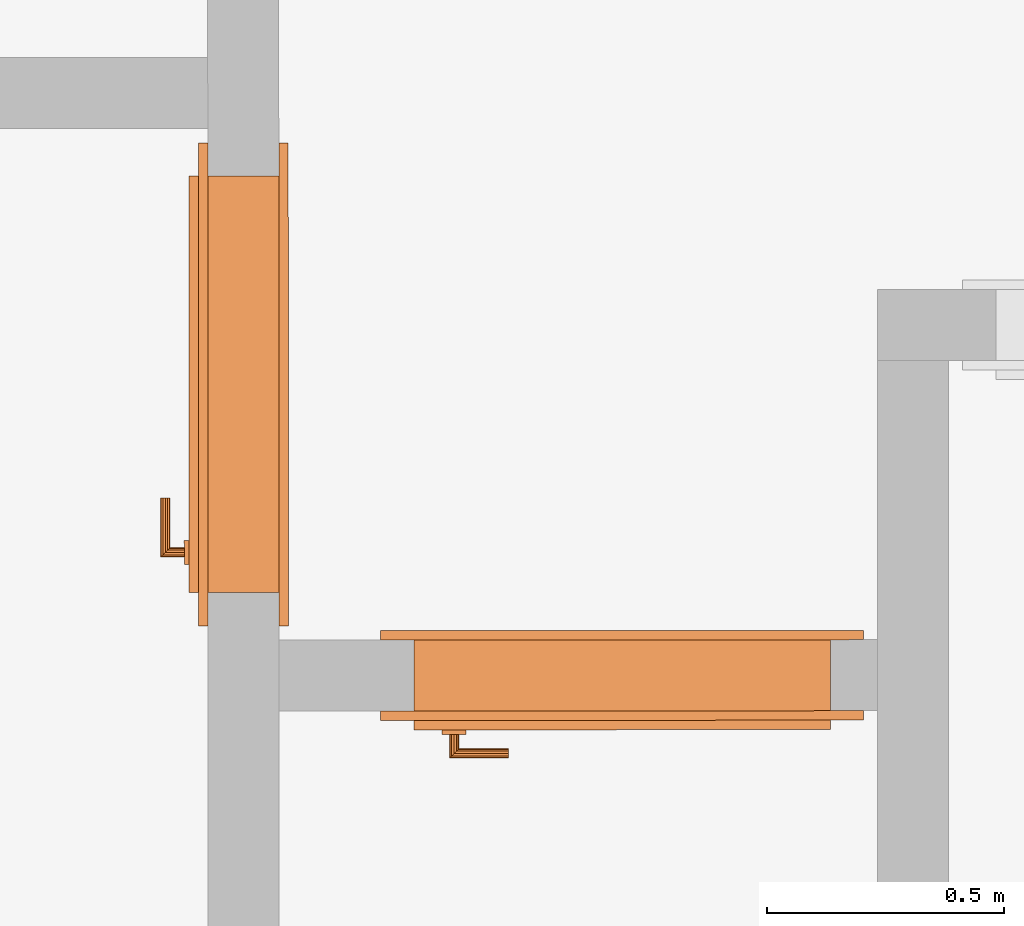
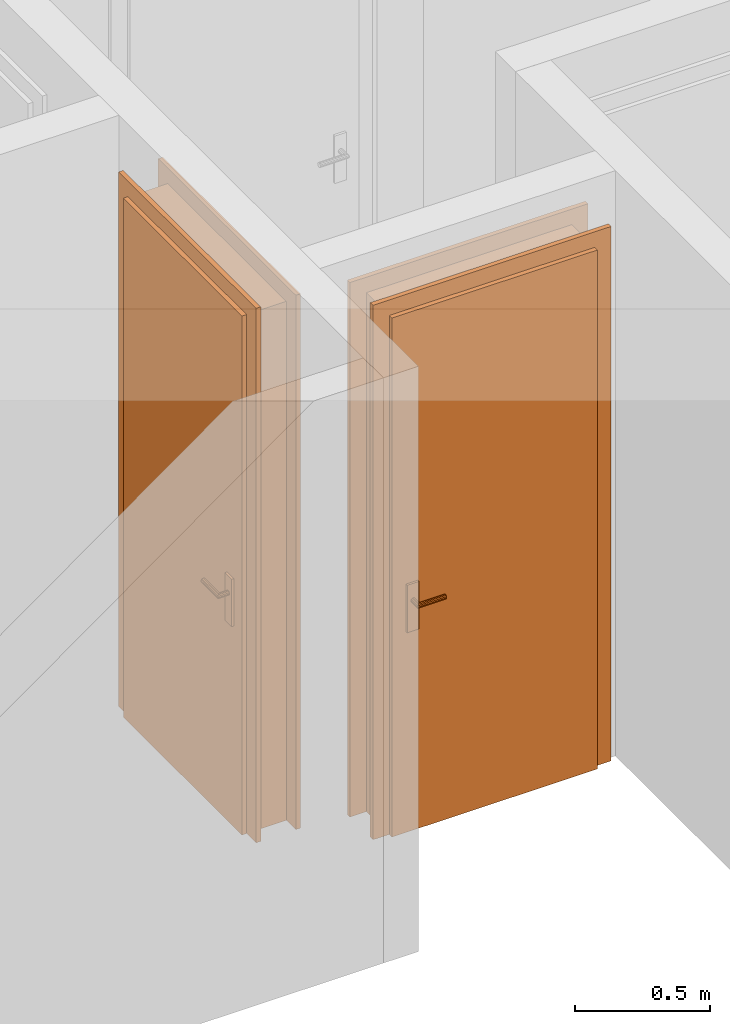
# One storey, part 4 of 9: 2 proxies.
"""IFC2X3 building model written with IfcOpenShell, lengths in metres."""

import ifcopenshell
import ifcopenshell.guid

model = None  # the IFC model being written
_history = None  # IfcOwnerHistory: only IFC2X3 demands one
_inside = {}  # id of a spatial element -> (the spatial element, [elements in it])
_under = {}  # id of a project, library or spatial element -> (it, [spatial elements below it])
_declared = {}  # id of a project -> (the project, [libraries it declares])
_typed = {}  # id of a type object -> (the type object, [elements of that type])
_made_of = {}  # id of a material, layer set ... -> (it, [elements and type objects made of it])


def new_model(schema):
    """Start an empty IFC model of exactly this schema.

    Asked for "IFC4X3", IfcOpenShell would pick the latest addendum, in which some entities
    have other attributes; the version numbers below select the first issue.
    IFC2X3 requires an IfcOwnerHistory on every rooted entity: one is made here for all.
    """
    global model, _history
    if schema == "IFC4X3":
        model = ifcopenshell.file(schema_version=(4, 3, 0, 0))
    else:
        model = ifcopenshell.file(schema=schema)
    _inside.clear()
    _under.clear()
    _declared.clear()
    _typed.clear()
    _made_of.clear()
    _history = None
    if model.schema == "IFC2X3":
        org = make("IfcOrganization", Name="unknown")
        user = make(
            "IfcPersonAndOrganization",
            ThePerson=make("IfcPerson", FamilyName="unknown"),
            TheOrganization=org,
        )
        app = make(
            "IfcApplication",
            ApplicationDeveloper=org,
            Version="unknown",
            ApplicationFullName="unknown",
            ApplicationIdentifier="unknown",
        )
        _history = make(
            "IfcOwnerHistory",
            OwningUser=user,
            OwningApplication=app,
            ChangeAction="ADDED",
            CreationDate=0,
        )
    return model


def make(cls, **values):
    """One entity of the class cls with the attributes given. An attribute that is None is left unset."""
    return model.create_entity(
        cls, **{name: value for name, value in values.items() if value is not None}
    )


def entity(cls, *values):
    """Any entity or typed value of the class cls, its attributes in the order of the schema. None: left unset."""
    e = model.create_entity(cls)
    for i, value in enumerate(values):
        if value is not None:
            e[i] = value
    return e


def rooted(cls, **values):
    """An entity with a GlobalId (a new one), such as an element, a storey or a relation."""
    return make(cls, GlobalId=ifcopenshell.guid.new(), OwnerHistory=_history, **values)


def si_unit(unit_type, name, prefix=None):
    """IfcSIUnit, for example si_unit("LENGTHUNIT", "METRE", prefix="MILLI")."""
    return make("IfcSIUnit", UnitType=unit_type, Prefix=prefix, Name=name)


def converted_unit(unit_type, name, factor, base, dimensions=None, offset=None):
    """IfcConversionBasedUnit, such as the inch: factor (a typed value) times the base unit."""
    return make(
        "IfcConversionBasedUnit"
        if offset is None
        else "IfcConversionBasedUnitWithOffset",
        ConversionOffset=offset,
        Dimensions=None
        if dimensions is None
        else entity("IfcDimensionalExponents", *dimensions),
        UnitType=unit_type,
        Name=name,
        ConversionFactor=make(
            "IfcMeasureWithUnit", ValueComponent=factor, UnitComponent=base
        ),
    )


def derived_unit(unit_type, elements):
    """IfcDerivedUnit: a product of units, each with its exponent."""
    return make(
        "IfcDerivedUnit",
        Elements=[
            make("IfcDerivedUnitElement", Unit=unit, Exponent=power)
            for unit, power in elements
        ],
        UnitType=unit_type,
    )


def assignment(units):
    """IfcUnitAssignment: the units of a project."""
    return None if units is None else make("IfcUnitAssignment", Units=units)


def point(xyz):
    """IfcCartesianPoint."""
    return None if xyz is None else make("IfcCartesianPoint", Coordinates=xyz)


def direction(xyz):
    """IfcDirection."""
    return None if xyz is None else make("IfcDirection", DirectionRatios=xyz)


def frame(location, z_axis=None, x_axis=None):
    """IfcAxis2Placement3D, a coordinate frame: its origin and axes. An axis left out is left unset."""
    return make(
        "IfcAxis2Placement3D",
        Location=point(location),
        Axis=direction(z_axis),
        RefDirection=direction(x_axis),
    )


def origin():
    """The frame at (0, 0, 0) with its axes left unset."""
    return frame((0.0, 0.0, 0.0))


def origin_with_axes():
    """The frame at (0, 0, 0) with the z axis (0, 0, 1) and the x axis (1, 0, 0) written out."""
    return frame((0.0, 0.0, 0.0), z_axis=(0.0, 0.0, 1.0), x_axis=(1.0, 0.0, 0.0))


def place(relative_to, where):
    """IfcLocalPlacement: puts the frame where relative to a parent placement (None: the world)."""
    return make(
        "IfcLocalPlacement", PlacementRelTo=relative_to, RelativePlacement=where
    )


def context(
    kind, dimensions, precision=None, world=None, true_north=None, identifier=None
):
    """IfcGeometricRepresentationContext, for example the 3D "Model" context."""
    return make(
        "IfcGeometricRepresentationContext",
        ContextIdentifier=identifier,
        ContextType=kind,
        CoordinateSpaceDimension=dimensions,
        Precision=precision,
        WorldCoordinateSystem=world,
        TrueNorth=true_north,
    )


def subcontext(parent, identifier, kind, view, scale=None):
    """IfcGeometricRepresentationSubContext, for example "Body" below "Model"."""
    return make(
        "IfcGeometricRepresentationSubContext",
        ContextIdentifier=identifier,
        ContextType=kind,
        ParentContext=parent,
        TargetScale=scale,
        TargetView=view,
    )


def project(units=None, contexts=None):
    """IfcProject with its units and contexts."""
    return rooted(
        "IfcProject",
        Name="project",
        RepresentationContexts=contexts,
        UnitsInContext=assignment(units),
    )


def spatial(cls, under=None, at=None, **own):
    """A site, building, storey or space (cls), placed at a placement, below another one or the project."""
    s = rooted(cls, ObjectPlacement=at, **own)
    if under is not None:
        _under.setdefault(under.id(), (under, []))[1].append(s)
    return s


def faces_of(points, faces, orient=None, outer=None):
    """IfcFace entities. A face is a list of loops; a loop is a list of indices into points, from 0.

    orient and outer hold one flag for each loop. By default every Orientation is true, the
    first loop of a face is its IfcFaceOuterBound and the others are IfcFaceBound.
    """
    made = []
    for i, loops in enumerate(faces):
        bounds = []
        for j, loop in enumerate(loops):
            is_outer = j == 0 if outer is None else outer[i][j]
            bounds.append(
                make(
                    "IfcFaceOuterBound" if is_outer else "IfcFaceBound",
                    Bound=make("IfcPolyLoop", Polygon=[points[k] for k in loop]),
                    Orientation=True if orient is None else orient[i][j],
                )
            )
        made.append(make("IfcFace", Bounds=bounds))
    return made


def faceted_brep(points, faces, orient=None, outer=None, voids=None):
    """IfcFacetedBrep: a solid bounded by flat faces; with voids (closed shells), ...WithVoids."""
    shared = [point(p) for p in points]
    hull = make("IfcClosedShell", CfsFaces=faces_of(shared, faces, orient, outer))
    if voids is None:
        return make("IfcFacetedBrep", Outer=hull)
    return make(
        "IfcFacetedBrepWithVoids",
        Outer=hull,
        Voids=[
            make(cls, CfsFaces=faces_of(shared, fs, o, b)) for cls, fs, o, b in voids
        ],
    )


def shape(context_of_items, identifier, shape_type, items):
    """IfcShapeRepresentation: the items that make up one representation, for example the "Body"."""
    return make(
        "IfcShapeRepresentation",
        ContextOfItems=context_of_items,
        RepresentationIdentifier=identifier,
        RepresentationType=shape_type,
        Items=items,
    )


def source(mapping_origin, context_of_items, identifier, shape_type, items):
    """IfcRepresentationMap: a shape defined once, which mapped items show again and again."""
    return make(
        "IfcRepresentationMap",
        MappingOrigin=mapping_origin,
        MappedRepresentation=shape(context_of_items, identifier, shape_type, items),
    )


def transform(
    local_origin,
    x_axis=None,
    y_axis=None,
    z_axis=None,
    scale=None,
    scale2=None,
    scale3=None,
    uniform=True,
):
    """IfcCartesianTransformationOperator3D, or its non-uniform kind. x_axis, y_axis, z_axis: its Axis1, 2, 3."""
    if uniform:
        return make(
            "IfcCartesianTransformationOperator3D",
            Axis1=direction(x_axis),
            Axis2=direction(y_axis),
            LocalOrigin=point(local_origin),
            Scale=scale,
            Axis3=direction(z_axis),
        )
    return make(
        "IfcCartesianTransformationOperator3DnonUniform",
        Axis1=direction(x_axis),
        Axis2=direction(y_axis),
        LocalOrigin=point(local_origin),
        Scale=scale,
        Axis3=direction(z_axis),
        Scale2=scale2,
        Scale3=scale3,
    )


def mapped(mapping_source, mapping_target):
    """IfcMappedItem: shows the shape of a source again, moved by a transform."""
    return make(
        "IfcMappedItem", MappingSource=mapping_source, MappingTarget=mapping_target
    )


def made_of(thing, what):
    """Note that an element or type object is made of a material, layer set ...; save() writes the relation."""
    if what is not None:
        _made_of.setdefault(what.id(), (what, []))[1].append(thing)
    return thing


def element(
    cls,
    number,
    at=None,
    inside=None,
    cuts=None,
    type_object=None,
    material=None,
    context=None,
    identifier="Body",
    shape_type=None,
    held_by="IfcProductDefinitionShape",
    body=None,
    shapes=None,
    **own,
):
    """One element of the class cls, such as IfcWall. Its Tag is "e" and its number.

    at: its placement. inside: the storey or other place that contains it. cuts: it is an
    opening in that element (IfcRelVoidsElement). A single representation is given by context,
    identifier, shape_type and body (its items); several are given by shapes. held_by: the class
    of the entity that holds the representations. save() writes the other relations.
    """
    e = rooted(cls, Tag="e%d" % number, ObjectPlacement=at, **own)
    if body is not None:
        shapes = [shape(context, identifier, shape_type, body)]
    if shapes is not None:
        e.Representation = make(held_by, Representations=shapes)
    if inside is not None:
        _inside.setdefault(inside.id(), (inside, []))[1].append(e)
    if cuts is not None:
        rooted(
            "IfcRelVoidsElement", RelatingBuildingElement=cuts, RelatedOpeningElement=e
        )
    if type_object is not None:
        _typed.setdefault(type_object.id(), (type_object, []))[1].append(e)
    return made_of(e, material)


def aggregate(whole, parts):
    """IfcRelAggregates: a whole, such as a stair, and the parts it consists of."""
    return rooted("IfcRelAggregates", RelatingObject=whole, RelatedObjects=parts)


def save(model, path):
    """Write the relations noted so far, then the file.

    IfcRelAggregates (storeys below a building ...), IfcRelContainedInSpatialStructure (elements
    in a storey), IfcRelDefinesByType, IfcRelAssociatesMaterial and IfcRelDeclares: one each for
    every whole, place, type object, material and project.
    """
    for whole, parts in _under.values():
        aggregate(whole, parts)
    for where, things in _inside.values():
        rooted(
            "IfcRelContainedInSpatialStructure",
            RelatedElements=things,
            RelatingStructure=where,
        )
    for kind, things in _typed.values():
        rooted("IfcRelDefinesByType", RelatedObjects=things, RelatingType=kind)
    for what, things in _made_of.values():
        rooted("IfcRelAssociatesMaterial", RelatedObjects=things, RelatingMaterial=what)
    for by, libraries in _declared.values():
        rooted("IfcRelDeclares", RelatingContext=by, RelatedDefinitions=libraries)
    model.write(path)


model = new_model("IFC2X3")

# Units and contexts
model_context = context("Model", 3, precision=1e-05, world=origin(), true_north=direction((0.772621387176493, -0.634867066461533)))
body_context = subcontext(model_context, "Body", "Model", "MODEL_VIEW")
ifc_project = project(units=[si_unit("LENGTHUNIT", "METRE"), si_unit("AREAUNIT", "SQUARE_METRE"), si_unit("VOLUMEUNIT", "CUBIC_METRE"), si_unit("MASSUNIT", "GRAM", prefix="KILO"), converted_unit("PLANEANGLEUNIT", "DEGREE", entity("IfcPlaneAngleMeasure", 0.0174532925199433), si_unit("PLANEANGLEUNIT", "RADIAN"), dimensions=[0, 0, 0, 0, 0, 0, 0]), derived_unit("THERMALTRANSMITTANCEUNIT", [(si_unit("POWERUNIT", "WATT"), 1), (si_unit("THERMODYNAMICTEMPERATUREUNIT", "KELVIN"), -1), (si_unit("LENGTHUNIT", "METRE"), -2)]), derived_unit("VOLUMETRICFLOWRATEUNIT", [(si_unit("LENGTHUNIT", "METRE"), 3), (converted_unit("TIMEUNIT", "hour", entity("IfcTimeMeasure", 3600.0), si_unit("TIMEUNIT", "SECOND"), dimensions=[0, 0, 1, 0, 0, 0, 0]), -1), (si_unit("LENGTHUNIT", "METRE"), -1)])], contexts=[model_context])

# Site, building, storey
site_placement = place(None, origin())
site = spatial("IfcSite", under=ifc_project, at=site_placement, Name="Modelle auf dem Nullpunkt", CompositionType="ELEMENT")
building_placement = place(site_placement, origin())
building = spatial("IfcBuilding", under=site, at=building_placement, Name="I", CompositionType="ELEMENT")
storey_placement = place(building_placement, origin())
storey = spatial("IfcBuildingStorey", under=building, at=storey_placement, Name="EG", CompositionType="ELEMENT", Elevation=0.0)

# Proxies
shared_shape_1 = source(origin_with_axes(), body_context, "Body", "Brep", [
    faceted_brep([(0.950000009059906, 0.19000000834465, 2.35), (0.930000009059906, 0.19000000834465, 2.35), (0.930000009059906, 0.19000000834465, 0.0), (0.950000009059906, 0.19000000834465, 0.0), (0.950000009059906, 0.0, 0.0), (0.930000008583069, 0.0, 0.0), (0.930000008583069, 0.0, 2.35), (0.950000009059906, 0.0, 2.35)], [[[0, 1, 2, 3]], [[4, 5, 6, 7]], [[3, 4, 7, 0]], [[2, 5, 4, 3]], [[1, 6, 5, 2]], [[0, 7, 6, 1]]], orient=[[False], [False], [False], [False], [False], [False]]),
    faceted_brep([(0.950000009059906, 0.19000000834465, 2.42), (0.950000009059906, 0.19000000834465, 0.0), (1.02000000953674, 0.19000000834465, 0.0), (1.02000000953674, 0.19000000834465, 2.42), (0.950000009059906, 0.170000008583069, 0.0), (0.950000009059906, 0.170000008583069, 2.42), (1.02000000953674, 0.170000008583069, 2.42), (1.02000000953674, 0.170000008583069, 0.0)], [[[0, 1, 2, 3]], [[4, 5, 6, 7]], [[1, 0, 5, 4]], [[2, 1, 4, 7]], [[3, 2, 7, 6]], [[0, 3, 6, 5]]], orient=[[False], [False], [False], [False], [False], [False]]),
    faceted_brep([(0.950000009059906, 0.0199999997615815, 2.42), (0.950000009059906, 0.0199999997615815, 0.0), (1.02000001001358, 0.0199999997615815, 0.0), (1.02000001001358, 0.0199999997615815, 2.42), (0.950000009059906, 0.0, 0.0), (0.950000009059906, 0.0, 2.42), (1.02000000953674, 0.0, 2.42), (1.02000000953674, 0.0, 0.0)], [[[0, 1, 2, 3]], [[4, 5, 6, 7]], [[1, 0, 5, 4]], [[2, 1, 4, 7]], [[3, 2, 7, 6]], [[0, 3, 6, 5]]], orient=[[False], [False], [False], [False], [False], [False]]),
    faceted_brep([(0.0900000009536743, 0.19000000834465, 2.35), (0.0700000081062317, 0.19000000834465, 2.35), (0.0700000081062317, 0.19000000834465, 0.0), (0.0900000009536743, 0.19000000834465, 0.0), (0.0900000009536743, 0.0, 0.0), (0.0700000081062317, 0.0, 0.0), (0.0700000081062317, 0.0, 2.35), (0.0900000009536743, 0.0, 2.35)], [[[0, 1, 2, 3]], [[4, 5, 6, 7]], [[3, 4, 7, 0]], [[2, 5, 4, 3]], [[1, 6, 5, 2]], [[0, 7, 6, 1]]], orient=[[False], [False], [False], [False], [False], [False]]),
    faceted_brep([(0.0700000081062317, 0.19000000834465, 2.42), (0.0, 0.19000000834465, 2.42), (0.0, 0.19000000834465, 0.0), (0.0700000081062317, 0.19000000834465, 0.0), (0.0700000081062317, 0.170000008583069, 0.0), (0.0, 0.170000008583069, 0.0), (0.0, 0.170000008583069, 2.42), (0.0700000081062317, 0.170000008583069, 2.42)], [[[0, 1, 2, 3]], [[4, 5, 6, 7]], [[3, 4, 7, 0]], [[2, 5, 4, 3]], [[1, 6, 5, 2]], [[0, 7, 6, 1]]], orient=[[False], [False], [False], [False], [False], [False]]),
    faceted_brep([(0.0700000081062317, 0.0199999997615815, 2.42), (0.0, 0.0199999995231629, 2.42), (0.0, 0.0199999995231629, 0.0), (0.0700000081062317, 0.0199999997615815, 0.0), (0.0700000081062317, 0.0, 0.0), (0.0, 0.0, 0.0), (0.0, 0.0, 2.42), (0.0700000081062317, 0.0, 2.42)], [[[0, 1, 2, 3]], [[4, 5, 6, 7]], [[3, 4, 7, 0]], [[2, 5, 4, 3]], [[1, 6, 5, 2]], [[0, 7, 6, 1]]], orient=[[False], [False], [False], [False], [False], [False]]),
    faceted_brep([(0.930000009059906, 0.19000000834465, 2.35), (0.0900000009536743, 0.19000000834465, 2.35), (0.0900000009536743, 0.19000000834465, 2.33), (0.930000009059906, 0.19000000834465, 2.33), (0.930000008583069, 0.0, 2.33), (0.0900000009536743, 0.0, 2.33), (0.0900000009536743, 0.0, 2.35), (0.930000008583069, 0.0, 2.35)], [[[0, 1, 2, 3]], [[4, 5, 6, 7]], [[3, 4, 7, 0]], [[2, 5, 4, 3]], [[1, 6, 5, 2]], [[0, 7, 6, 1]]], orient=[[False], [False], [False], [False], [False], [False]]),
    faceted_brep([(0.950000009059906, 0.19000000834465, 2.42), (0.0700000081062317, 0.19000000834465, 2.42), (0.0700000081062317, 0.19000000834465, 2.35), (0.950000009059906, 0.19000000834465, 2.35), (0.950000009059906, 0.170000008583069, 2.35), (0.0700000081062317, 0.170000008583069, 2.35), (0.0700000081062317, 0.170000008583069, 2.42), (0.950000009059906, 0.170000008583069, 2.42)], [[[0, 1, 2, 3]], [[4, 5, 6, 7]], [[3, 4, 7, 0]], [[2, 5, 4, 3]], [[1, 6, 5, 2]], [[0, 7, 6, 1]]], orient=[[False], [False], [False], [False], [False], [False]]),
    faceted_brep([(0.950000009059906, 0.0199999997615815, 2.42), (0.0700000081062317, 0.0199999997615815, 2.42), (0.0700000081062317, 0.0199999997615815, 2.35), (0.950000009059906, 0.0199999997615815, 2.35), (0.950000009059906, 0.0, 2.35), (0.0700000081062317, 0.0, 2.35), (0.0700000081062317, 0.0, 2.42), (0.950000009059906, 0.0, 2.42)], [[[0, 1, 2, 3]], [[4, 5, 6, 7]], [[3, 4, 7, 0]], [[2, 5, 4, 3]], [[1, 6, 5, 2]], [[0, 7, 6, 1]]], orient=[[False], [False], [False], [False], [False], [False]]),
    faceted_brep([(0.950000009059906, 0.210000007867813, 2.35), (0.0700000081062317, 0.210000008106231, 2.35), (0.0700000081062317, 0.210000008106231, 0.0), (0.950000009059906, 0.210000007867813, 0.0), (0.950000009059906, 0.170000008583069, 0.0), (0.0700000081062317, 0.170000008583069, 0.0), (0.0700000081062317, 0.170000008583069, 2.35), (0.950000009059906, 0.170000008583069, 2.35)], [[[0, 1, 2, 3]], [[4, 5, 6, 7]], [[3, 4, 7, 0]], [[2, 5, 4, 3]], [[1, 6, 5, 2]], [[0, 7, 6, 1]]], orient=[[False], [False], [False], [False], [False], [False]]),
    faceted_brep([(0.890000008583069, 0.170000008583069, 1.125), (0.840000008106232, 0.170000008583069, 1.125), (0.840000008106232, 0.170000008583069, 0.91), (0.890000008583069, 0.170000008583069, 0.91), (0.890000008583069, 0.160000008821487, 0.91), (0.840000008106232, 0.160000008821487, 0.91), (0.840000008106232, 0.160000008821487, 1.125), (0.890000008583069, 0.160000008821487, 1.125)], [[[0, 1, 2, 3]], [[4, 5, 6, 7]], [[3, 4, 7, 0]], [[2, 5, 4, 3]], [[1, 6, 5, 2]], [[0, 7, 6, 1]]], orient=[[False], [False], [False], [False], [False], [False]]),
    faceted_brep([(0.865000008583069, 0.160000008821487, 1.06), (0.860000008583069, 0.160000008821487, 1.05866025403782), (0.856339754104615, 0.160000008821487, 1.055), (0.855000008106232, 0.160000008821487, 1.05), (0.856339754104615, 0.160000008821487, 1.045), (0.860000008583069, 0.160000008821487, 1.04133974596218), (0.865000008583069, 0.160000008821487, 1.04), (0.870000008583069, 0.160000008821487, 1.04133974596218), (0.873660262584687, 0.160000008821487, 1.045), (0.875000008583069, 0.160000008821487, 1.05), (0.873660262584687, 0.160000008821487, 1.055), (0.870000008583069, 0.160000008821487, 1.05866025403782), (0.870000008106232, 0.115000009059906, 1.05866025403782), (0.865000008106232, 0.120000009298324, 1.06), (0.873660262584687, 0.111339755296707, 1.055), (0.875000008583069, 0.110000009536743, 1.05), (0.873660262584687, 0.111339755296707, 1.045), (0.870000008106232, 0.115000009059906, 1.04133974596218), (0.865000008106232, 0.120000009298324, 1.04), (0.860000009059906, 0.125000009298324, 1.04133974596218), (0.856339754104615, 0.128660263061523, 1.045), (0.855000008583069, 0.130000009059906, 1.05), (0.856339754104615, 0.128660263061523, 1.055), (0.860000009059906, 0.125000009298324, 1.05866025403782), (0.750000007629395, 0.120000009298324, 1.06), (0.750000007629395, 0.115000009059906, 1.05866025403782), (0.750000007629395, 0.111339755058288, 1.055), (0.750000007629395, 0.110000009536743, 1.05), (0.750000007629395, 0.111339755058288, 1.045), (0.750000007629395, 0.115000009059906, 1.04133974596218), (0.750000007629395, 0.120000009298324, 1.04), (0.750000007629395, 0.125000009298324, 1.04133974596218), (0.750000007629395, 0.128660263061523, 1.045), (0.750000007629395, 0.130000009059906, 1.05), (0.750000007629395, 0.128660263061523, 1.055), (0.750000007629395, 0.125000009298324, 1.05866025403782)], [[[0, 1, 2, 3, 4, 5, 6, 7, 8, 9, 10, 11]], [[0, 11, 12, 13]], [[11, 10, 14, 12]], [[10, 9, 15, 14]], [[9, 8, 16, 15]], [[8, 7, 17, 16]], [[7, 6, 18, 17]], [[6, 5, 19, 18]], [[5, 4, 20, 19]], [[4, 3, 21, 20]], [[3, 2, 22, 21]], [[2, 1, 23, 22]], [[1, 0, 13, 23]], [[24, 25, 26, 27, 28, 29, 30, 31, 32, 33, 34, 35]], [[13, 12, 25, 24]], [[12, 14, 26, 25]], [[14, 15, 27, 26]], [[15, 16, 28, 27]], [[16, 17, 29, 28]], [[17, 18, 30, 29]], [[18, 19, 31, 30]], [[19, 20, 32, 31]], [[20, 21, 33, 32]], [[21, 22, 34, 33]], [[22, 23, 35, 34]], [[23, 13, 24, 35]]], orient=[[False], [False], [False], [False], [False], [False], [False], [False], [False], [False], [False], [False], [False], [False], [False], [False], [False], [False], [False], [False], [False], [False], [False], [False], [False], [False]]),
    faceted_brep([(0.890000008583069, 0.210000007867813, 1.125), (0.890000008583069, 0.210000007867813, 0.91), (0.840000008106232, 0.210000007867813, 0.91), (0.840000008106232, 0.210000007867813, 1.125), (0.890000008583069, 0.220000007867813, 0.91), (0.890000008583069, 0.220000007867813, 1.125), (0.840000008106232, 0.220000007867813, 1.125), (0.840000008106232, 0.220000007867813, 0.91)], [[[0, 1, 2, 3]], [[4, 5, 6, 7]], [[1, 0, 5, 4]], [[2, 1, 4, 7]], [[3, 2, 7, 6]], [[0, 3, 6, 5]]], orient=[[False], [False], [False], [False], [False], [False]]),
    faceted_brep([(0.865000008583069, 0.220000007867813, 1.06), (0.870000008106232, 0.220000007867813, 1.05866025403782), (0.873660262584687, 0.220000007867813, 1.055), (0.875000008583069, 0.220000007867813, 1.05), (0.873660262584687, 0.220000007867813, 1.045), (0.870000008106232, 0.220000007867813, 1.04133974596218), (0.865000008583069, 0.220000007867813, 1.04), (0.860000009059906, 0.220000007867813, 1.04133974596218), (0.856339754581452, 0.220000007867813, 1.045), (0.855000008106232, 0.220000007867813, 1.05), (0.856339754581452, 0.220000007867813, 1.055), (0.860000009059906, 0.220000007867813, 1.05866025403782), (0.865000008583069, 0.260000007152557, 1.06), (0.870000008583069, 0.265000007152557, 1.05866025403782), (0.873660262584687, 0.268660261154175, 1.055), (0.875000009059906, 0.270000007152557, 1.05), (0.873660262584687, 0.268660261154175, 1.045), (0.870000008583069, 0.265000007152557, 1.04133974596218), (0.865000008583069, 0.260000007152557, 1.04), (0.860000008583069, 0.255000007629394, 1.04133974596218), (0.856339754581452, 0.251339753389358, 1.045), (0.855000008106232, 0.250000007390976, 1.05), (0.856339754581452, 0.251339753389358, 1.055), (0.860000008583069, 0.255000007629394, 1.05866025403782), (0.750000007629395, 0.260000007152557, 1.06), (0.750000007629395, 0.255000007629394, 1.05866025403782), (0.750000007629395, 0.251339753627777, 1.055), (0.750000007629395, 0.250000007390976, 1.05), (0.750000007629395, 0.251339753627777, 1.045), (0.750000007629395, 0.255000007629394, 1.04133974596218), (0.750000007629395, 0.260000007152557, 1.04), (0.750000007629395, 0.265000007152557, 1.04133974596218), (0.750000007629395, 0.268660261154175, 1.045), (0.750000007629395, 0.270000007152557, 1.05), (0.750000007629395, 0.268660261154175, 1.055), (0.750000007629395, 0.265000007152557, 1.05866025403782)], [[[0, 1, 2, 3, 4, 5, 6, 7, 8, 9, 10, 11]], [[0, 12, 13, 1]], [[1, 13, 14, 2]], [[2, 14, 15, 3]], [[3, 15, 16, 4]], [[4, 16, 17, 5]], [[5, 17, 18, 6]], [[6, 18, 19, 7]], [[7, 19, 20, 8]], [[8, 20, 21, 9]], [[9, 21, 22, 10]], [[10, 22, 23, 11]], [[11, 23, 12, 0]], [[24, 25, 26, 27, 28, 29, 30, 31, 32, 33, 34, 35]], [[12, 24, 35, 13]], [[13, 35, 34, 14]], [[14, 34, 33, 15]], [[15, 33, 32, 16]], [[16, 32, 31, 17]], [[17, 31, 30, 18]], [[18, 30, 29, 19]], [[19, 29, 28, 20]], [[20, 28, 27, 21]], [[21, 27, 26, 22]], [[22, 26, 25, 23]], [[23, 25, 24, 12]]], orient=[[False], [False], [False], [False], [False], [False], [False], [False], [False], [False], [False], [False], [False], [False], [False], [False], [False], [False], [False], [False], [False], [False], [False], [False], [False], [False]]),
])
proxy_1_placement = place(storey_placement, frame((33.5238810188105, -3.33191685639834, 435.89), z_axis=(0.0, 0.0, 1.0), x_axis=(-0.999999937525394, -0.000353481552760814, 0.0)))
element("IfcBuildingElementProxy", 1, at=proxy_1_placement, inside=storey, Name="1flg Weiß UZ außen", context=body_context, shape_type="MappedRepresentation", body=[
    mapped(shared_shape_1, transform((0.0, 0.0, 0.0), x_axis=(1.0, 0.0, 0.0), y_axis=(0.0, 1.0, 0.0), z_axis=(0.0, 0.0, 1.0), scale=1.0)),
])
shared_shape_2 = source(origin_with_axes(), body_context, "Body", "Brep", [
    faceted_brep([(0.070000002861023, 0.1900000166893, 2.35), (0.070000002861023, 0.1900000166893, 0.0), (0.0900000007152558, 0.1900000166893, 0.0), (0.0900000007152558, 0.1900000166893, 2.35), (0.070000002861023, 0.0, 0.0), (0.070000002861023, 0.0, 2.35), (0.0900000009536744, 0.0, 2.35), (0.0900000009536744, 0.0, 0.0)], [[[0, 1, 2, 3]], [[4, 5, 6, 7]], [[1, 0, 5, 4]], [[2, 1, 4, 7]], [[3, 2, 7, 6]], [[0, 3, 6, 5]]], orient=[[False], [False], [False], [False], [False], [False]]),
    faceted_brep([(0.070000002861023, 0.1900000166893, 2.42), (0.0, 0.1900000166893, 2.42), (0.0, 0.1900000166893, 0.0), (0.070000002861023, 0.1900000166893, 0.0), (0.070000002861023, 0.170000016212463, 0.0), (0.0, 0.170000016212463, 0.0), (0.0, 0.170000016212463, 2.42), (0.070000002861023, 0.170000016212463, 2.42)], [[[0, 1, 2, 3]], [[4, 5, 6, 7]], [[3, 4, 7, 0]], [[2, 5, 4, 3]], [[1, 6, 5, 2]], [[0, 7, 6, 1]]], orient=[[False], [False], [False], [False], [False], [False]]),
    faceted_brep([(0.070000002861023, 0.0200000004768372, 2.42), (0.0, 0.0200000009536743, 2.42), (0.0, 0.0200000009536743, 0.0), (0.070000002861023, 0.0200000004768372, 0.0), (0.070000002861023, 0.0, 0.0), (0.0, 0.0, 0.0), (0.0, 0.0, 2.42), (0.070000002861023, 0.0, 2.42)], [[[0, 1, 2, 3]], [[4, 5, 6, 7]], [[3, 4, 7, 0]], [[2, 5, 4, 3]], [[1, 6, 5, 2]], [[0, 7, 6, 1]]], orient=[[False], [False], [False], [False], [False], [False]]),
    faceted_brep([(0.930000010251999, 0.1900000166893, 2.35), (0.930000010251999, 0.1900000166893, 0.0), (0.950000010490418, 0.1900000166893, 0.0), (0.950000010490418, 0.1900000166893, 2.35), (0.930000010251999, 0.0, 0.0), (0.930000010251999, 0.0, 2.35), (0.950000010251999, 0.0, 2.35), (0.950000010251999, 0.0, 0.0)], [[[0, 1, 2, 3]], [[4, 5, 6, 7]], [[1, 0, 5, 4]], [[2, 1, 4, 7]], [[3, 2, 7, 6]], [[0, 3, 6, 5]]], orient=[[False], [False], [False], [False], [False], [False]]),
    faceted_brep([(0.950000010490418, 0.1900000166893, 2.42), (0.950000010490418, 0.1900000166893, 0.0), (1.02000001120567, 0.1900000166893, 0.0), (1.02000001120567, 0.1900000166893, 2.42), (0.950000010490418, 0.170000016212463, 0.0), (0.950000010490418, 0.170000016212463, 2.42), (1.02000001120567, 0.170000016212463, 2.42), (1.02000001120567, 0.170000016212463, 0.0)], [[[0, 1, 2, 3]], [[4, 5, 6, 7]], [[1, 0, 5, 4]], [[2, 1, 4, 7]], [[3, 2, 7, 6]], [[0, 3, 6, 5]]], orient=[[False], [False], [False], [False], [False], [False]]),
    faceted_brep([(0.950000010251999, 0.0200000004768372, 2.42), (0.950000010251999, 0.0200000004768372, 0.0), (1.02000001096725, 0.0200000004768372, 0.0), (1.02000001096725, 0.0200000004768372, 2.42), (0.950000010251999, 0.0, 0.0), (0.950000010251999, 0.0, 2.42), (1.02000001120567, 0.0, 2.42), (1.02000001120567, 0.0, 0.0)], [[[0, 1, 2, 3]], [[4, 5, 6, 7]], [[1, 0, 5, 4]], [[2, 1, 4, 7]], [[3, 2, 7, 6]], [[0, 3, 6, 5]]], orient=[[False], [False], [False], [False], [False], [False]]),
    faceted_brep([(0.0900000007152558, 0.1900000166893, 2.35), (0.0900000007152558, 0.1900000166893, 2.33), (0.930000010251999, 0.1900000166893, 2.33), (0.930000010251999, 0.1900000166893, 2.35), (0.0900000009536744, 0.0, 2.33), (0.0900000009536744, 0.0, 2.35), (0.930000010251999, 0.0, 2.35), (0.930000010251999, 0.0, 2.33)], [[[0, 1, 2, 3]], [[4, 5, 6, 7]], [[1, 0, 5, 4]], [[2, 1, 4, 7]], [[3, 2, 7, 6]], [[0, 3, 6, 5]]], orient=[[False], [False], [False], [False], [False], [False]]),
    faceted_brep([(0.070000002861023, 0.1900000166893, 2.42), (0.070000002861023, 0.1900000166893, 2.35), (0.950000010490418, 0.1900000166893, 2.35), (0.950000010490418, 0.1900000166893, 2.42), (0.070000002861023, 0.170000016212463, 2.35), (0.070000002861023, 0.170000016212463, 2.42), (0.950000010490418, 0.170000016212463, 2.42), (0.950000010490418, 0.170000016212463, 2.35)], [[[0, 1, 2, 3]], [[4, 5, 6, 7]], [[1, 0, 5, 4]], [[2, 1, 4, 7]], [[3, 2, 7, 6]], [[0, 3, 6, 5]]], orient=[[False], [False], [False], [False], [False], [False]]),
    faceted_brep([(0.070000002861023, 0.0200000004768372, 2.42), (0.070000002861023, 0.0200000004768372, 2.35), (0.950000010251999, 0.0200000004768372, 2.35), (0.950000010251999, 0.0200000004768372, 2.42), (0.070000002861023, 0.0, 2.35), (0.070000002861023, 0.0, 2.42), (0.950000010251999, 0.0, 2.42), (0.950000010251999, 0.0, 2.35)], [[[0, 1, 2, 3]], [[4, 5, 6, 7]], [[1, 0, 5, 4]], [[2, 1, 4, 7]], [[3, 2, 7, 6]], [[0, 3, 6, 5]]], orient=[[False], [False], [False], [False], [False], [False]]),
    faceted_brep([(0.070000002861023, 0.210000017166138, 2.35), (0.070000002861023, 0.210000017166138, 0.0), (0.950000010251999, 0.210000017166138, 0.0), (0.950000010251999, 0.210000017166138, 2.35), (0.070000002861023, 0.170000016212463, 0.0), (0.070000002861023, 0.170000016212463, 2.35), (0.950000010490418, 0.170000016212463, 2.35), (0.950000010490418, 0.170000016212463, 0.0)], [[[0, 1, 2, 3]], [[4, 5, 6, 7]], [[1, 0, 5, 4]], [[2, 1, 4, 7]], [[3, 2, 7, 6]], [[0, 3, 6, 5]]], orient=[[False], [False], [False], [False], [False], [False]]),
    faceted_brep([(0.130000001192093, 0.170000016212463, 1.125), (0.130000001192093, 0.170000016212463, 0.91), (0.18000000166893, 0.170000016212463, 0.91), (0.18000000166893, 0.170000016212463, 1.125), (0.130000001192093, 0.160000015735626, 0.91), (0.130000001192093, 0.160000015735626, 1.125), (0.18000000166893, 0.160000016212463, 1.125), (0.18000000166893, 0.160000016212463, 0.91)], [[[0, 1, 2, 3]], [[4, 5, 6, 7]], [[1, 0, 5, 4]], [[2, 1, 4, 7]], [[3, 2, 7, 6]], [[0, 3, 6, 5]]], orient=[[False], [False], [False], [False], [False], [False]]),
    faceted_brep([(0.155000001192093, 0.160000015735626, 1.06), (0.15000000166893, 0.160000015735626, 1.05866025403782), (0.146339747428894, 0.160000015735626, 1.055), (0.145000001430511, 0.160000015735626, 1.05), (0.146339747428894, 0.160000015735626, 1.045), (0.15000000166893, 0.160000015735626, 1.04133974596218), (0.155000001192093, 0.160000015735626, 1.04), (0.160000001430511, 0.160000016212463, 1.04133974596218), (0.163660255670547, 0.160000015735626, 1.045), (0.165000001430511, 0.160000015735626, 1.05), (0.163660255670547, 0.160000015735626, 1.055), (0.160000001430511, 0.160000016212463, 1.05866025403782), (0.155000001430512, 0.120000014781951, 1.06), (0.150000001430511, 0.115000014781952, 1.05866025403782), (0.146339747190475, 0.111339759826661, 1.055), (0.145000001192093, 0.110000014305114, 1.05), (0.146339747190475, 0.111339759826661, 1.045), (0.150000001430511, 0.115000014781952, 1.04133974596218), (0.155000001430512, 0.120000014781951, 1.04), (0.160000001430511, 0.125000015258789, 1.04133974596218), (0.163660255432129, 0.12866026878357, 1.045), (0.165000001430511, 0.130000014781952, 1.05), (0.163660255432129, 0.12866026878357, 1.055), (0.160000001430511, 0.125000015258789, 1.05866025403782), (0.270000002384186, 0.120000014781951, 1.06), (0.270000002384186, 0.125000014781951, 1.05866025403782), (0.270000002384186, 0.12866026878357, 1.055), (0.270000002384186, 0.130000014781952, 1.05), (0.270000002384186, 0.12866026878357, 1.045), (0.270000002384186, 0.125000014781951, 1.04133974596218), (0.270000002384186, 0.120000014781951, 1.04), (0.270000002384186, 0.115000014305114, 1.04133974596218), (0.270000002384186, 0.111339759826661, 1.045), (0.270000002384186, 0.110000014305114, 1.05), (0.270000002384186, 0.111339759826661, 1.055), (0.270000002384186, 0.115000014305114, 1.05866025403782)], [[[0, 1, 2, 3, 4, 5, 6, 7, 8, 9, 10, 11]], [[0, 12, 13, 1]], [[1, 13, 14, 2]], [[2, 14, 15, 3]], [[3, 15, 16, 4]], [[4, 16, 17, 5]], [[5, 17, 18, 6]], [[6, 18, 19, 7]], [[7, 19, 20, 8]], [[8, 20, 21, 9]], [[9, 21, 22, 10]], [[10, 22, 23, 11]], [[11, 23, 12, 0]], [[24, 25, 26, 27, 28, 29, 30, 31, 32, 33, 34, 35]], [[12, 24, 35, 13]], [[13, 35, 34, 14]], [[14, 34, 33, 15]], [[15, 33, 32, 16]], [[16, 32, 31, 17]], [[17, 31, 30, 18]], [[18, 30, 29, 19]], [[19, 29, 28, 20]], [[20, 28, 27, 21]], [[21, 27, 26, 22]], [[22, 26, 25, 23]], [[23, 25, 24, 12]]], orient=[[False], [False], [False], [False], [False], [False], [False], [False], [False], [False], [False], [False], [False], [False], [False], [False], [False], [False], [False], [False], [False], [False], [False], [False], [False], [False]]),
    faceted_brep([(0.130000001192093, 0.210000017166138, 1.125), (0.18000000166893, 0.210000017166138, 1.125), (0.18000000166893, 0.210000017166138, 0.91), (0.130000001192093, 0.210000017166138, 0.91), (0.130000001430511, 0.220000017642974, 0.91), (0.18000000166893, 0.220000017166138, 0.91), (0.18000000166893, 0.220000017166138, 1.125), (0.130000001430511, 0.220000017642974, 1.125)], [[[0, 1, 2, 3]], [[4, 5, 6, 7]], [[3, 4, 7, 0]], [[2, 5, 4, 3]], [[1, 6, 5, 2]], [[0, 7, 6, 1]]], orient=[[False], [False], [False], [False], [False], [False]]),
    faceted_brep([(0.155000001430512, 0.220000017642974, 1.06), (0.160000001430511, 0.220000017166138, 1.05866025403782), (0.163660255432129, 0.220000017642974, 1.055), (0.16500000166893, 0.220000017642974, 1.05), (0.163660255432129, 0.220000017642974, 1.045), (0.160000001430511, 0.220000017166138, 1.04133974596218), (0.155000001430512, 0.220000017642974, 1.04), (0.150000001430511, 0.220000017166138, 1.04133974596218), (0.146339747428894, 0.220000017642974, 1.045), (0.145000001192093, 0.220000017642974, 1.05), (0.146339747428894, 0.220000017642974, 1.055), (0.150000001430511, 0.220000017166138, 1.05866025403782), (0.150000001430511, 0.26500001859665, 1.05866025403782), (0.155000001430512, 0.26000001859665, 1.06), (0.146339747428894, 0.26866027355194, 1.055), (0.145000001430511, 0.270000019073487, 1.05), (0.146339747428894, 0.26866027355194, 1.045), (0.150000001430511, 0.26500001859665, 1.04133974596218), (0.155000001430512, 0.26000001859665, 1.04), (0.160000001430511, 0.255000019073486, 1.04133974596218), (0.163660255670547, 0.251339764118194, 1.045), (0.165000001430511, 0.25000001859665, 1.05), (0.163660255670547, 0.251339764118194, 1.055), (0.160000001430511, 0.255000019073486, 1.05866025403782), (0.270000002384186, 0.26000001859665, 1.06), (0.270000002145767, 0.265000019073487, 1.05866025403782), (0.270000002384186, 0.26866027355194, 1.055), (0.270000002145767, 0.270000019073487, 1.05), (0.270000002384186, 0.26866027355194, 1.045), (0.270000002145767, 0.265000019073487, 1.04133974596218), (0.270000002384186, 0.26000001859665, 1.04), (0.270000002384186, 0.25500001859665, 1.04133974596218), (0.270000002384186, 0.251339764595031, 1.045), (0.270000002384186, 0.25000001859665, 1.05), (0.270000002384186, 0.251339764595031, 1.055), (0.270000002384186, 0.25500001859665, 1.05866025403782)], [[[0, 1, 2, 3, 4, 5, 6, 7, 8, 9, 10, 11]], [[0, 11, 12, 13]], [[11, 10, 14, 12]], [[10, 9, 15, 14]], [[9, 8, 16, 15]], [[8, 7, 17, 16]], [[7, 6, 18, 17]], [[6, 5, 19, 18]], [[5, 4, 20, 19]], [[4, 3, 21, 20]], [[3, 2, 22, 21]], [[2, 1, 23, 22]], [[1, 0, 13, 23]], [[24, 25, 26, 27, 28, 29, 30, 31, 32, 33, 34, 35]], [[13, 12, 25, 24]], [[12, 14, 26, 25]], [[14, 15, 27, 26]], [[15, 16, 28, 27]], [[16, 17, 29, 28]], [[17, 18, 30, 29]], [[18, 19, 31, 30]], [[19, 20, 32, 31]], [[20, 21, 33, 32]], [[21, 22, 34, 33]], [[22, 23, 35, 34]], [[23, 13, 24, 35]]], orient=[[False], [False], [False], [False], [False], [False], [False], [False], [False], [False], [False], [False], [False], [False], [False], [False], [False], [False], [False], [False], [False], [False], [False], [False], [False], [False]]),
])
proxy_2_placement = place(storey_placement, frame((32.3088775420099, -3.32234634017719, 435.89), z_axis=(0.0, 0.0, 1.0), x_axis=(-0.000353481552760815, 0.999999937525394, 0.0)))
element("IfcBuildingElementProxy", 2, at=proxy_2_placement, inside=storey, Name="1flg Weiß UZ außen", context=body_context, shape_type="MappedRepresentation", body=[
    mapped(shared_shape_2, transform((0.0, 0.0, 0.0), x_axis=(1.0, 0.0, 0.0), y_axis=(0.0, 1.0, 0.0), z_axis=(0.0, 0.0, 1.0), scale=1.0)),
])

save(model, "model.ifc")
